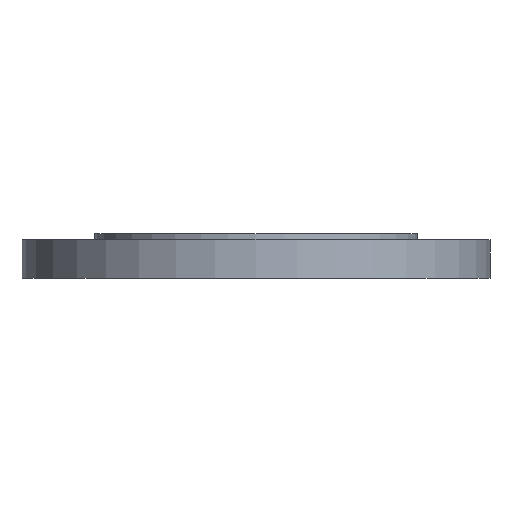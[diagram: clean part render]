
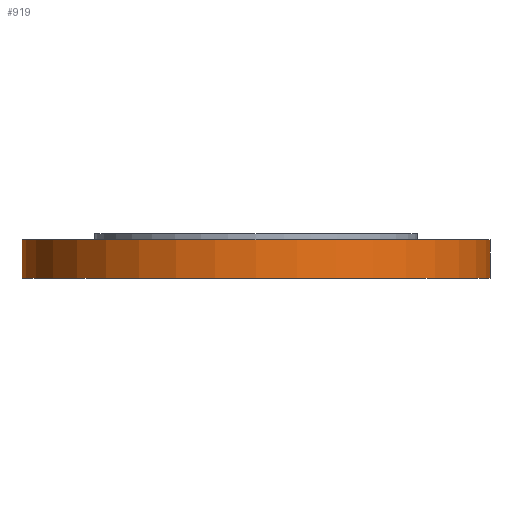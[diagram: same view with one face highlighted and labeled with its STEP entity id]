
A CAD part, front view. The second image highlights one B-rep face of the part: STEP entity #919.
In plain terms, the highlighted cylindrical face has radius 187.5 mm (diameter 375 mm), a partial arc.
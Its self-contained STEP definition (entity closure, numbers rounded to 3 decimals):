
#65 = CARTESIAN_POINT ( 'NONE',  ( 0., 0., -98. ) ) ;
#86 = LINE ( 'NONE', #470, #1239 ) ;
#115 = VERTEX_POINT ( 'NONE', #521 ) ;
#121 = LINE ( 'NONE', #505, #187 ) ;
#145 = EDGE_CURVE ( 'NONE', #1228, #217, #1084, .T. ) ;
#166 = CARTESIAN_POINT ( 'NONE',  ( -187.5, 0., -5. ) ) ;
#187 = VECTOR ( 'NONE', #920, 1000. ) ;
#217 = VERTEX_POINT ( 'NONE', #166 ) ;
#281 = DIRECTION ( 'NONE',  ( 0., 0., -1. ) ) ;
#428 = ORIENTED_EDGE ( 'NONE', *, *, #145, .T. ) ;
#432 = CARTESIAN_POINT ( 'NONE',  ( 0., 0., -5. ) ) ;
#441 = DIRECTION ( 'NONE',  ( 0., 0., 1. ) ) ;
#470 = CARTESIAN_POINT ( 'NONE',  ( -187.5, 0., -98. ) ) ;
#505 = CARTESIAN_POINT ( 'NONE',  ( 187.5, 0., -98. ) ) ;
#521 = CARTESIAN_POINT ( 'NONE',  ( -187.5, 0., -36. ) ) ;
#526 = VERTEX_POINT ( 'NONE', #732 ) ;
#542 = FACE_OUTER_BOUND ( 'NONE', #559, .T. ) ;
#543 = ORIENTED_EDGE ( 'NONE', *, *, #793, .T. ) ;
#559 = EDGE_LOOP ( 'NONE', ( #1052, #801, #543, #428 ) ) ;
#679 = DIRECTION ( 'NONE',  ( -1., 0., 0. ) ) ;
#686 = AXIS2_PLACEMENT_3D ( 'NONE', #65, #441, #860 ) ;
#732 = CARTESIAN_POINT ( 'NONE',  ( 187.5, 0., -36. ) ) ;
#793 = EDGE_CURVE ( 'NONE', #526, #1228, #121, .T. ) ;
#801 = ORIENTED_EDGE ( 'NONE', *, *, #1018, .F. ) ;
#810 = CARTESIAN_POINT ( 'NONE',  ( 187.5, 0., -5. ) ) ;
#852 = DIRECTION ( 'NONE',  ( 0., 0., -1. ) ) ;
#860 = DIRECTION ( 'NONE',  ( 1., 0., 0. ) ) ;
#885 = DIRECTION ( 'NONE',  ( 0., 0., 1. ) ) ;
#919 = ADVANCED_FACE ( 'NONE', ( #542 ), #955, .T. ) ;
#920 = DIRECTION ( 'NONE',  ( 0., 0., 1. ) ) ;
#925 = AXIS2_PLACEMENT_3D ( 'NONE', #432, #852, #1226 ) ;
#926 = CIRCLE ( 'NONE', #928, 187.5 ) ;
#928 = AXIS2_PLACEMENT_3D ( 'NONE', #1170, #281, #679 ) ;
#955 = CYLINDRICAL_SURFACE ( 'NONE', #686, 187.5 ) ;
#1014 = EDGE_CURVE ( 'NONE', #115, #217, #86, .T. ) ;
#1018 = EDGE_CURVE ( 'NONE', #526, #115, #926, .T. ) ;
#1052 = ORIENTED_EDGE ( 'NONE', *, *, #1014, .F. ) ;
#1084 = CIRCLE ( 'NONE', #925, 187.5 ) ;
#1170 = CARTESIAN_POINT ( 'NONE',  ( 0., 0., -36. ) ) ;
#1226 = DIRECTION ( 'NONE',  ( -1., 0., 0. ) ) ;
#1228 = VERTEX_POINT ( 'NONE', #810 ) ;
#1239 = VECTOR ( 'NONE', #885, 1000. ) ;
